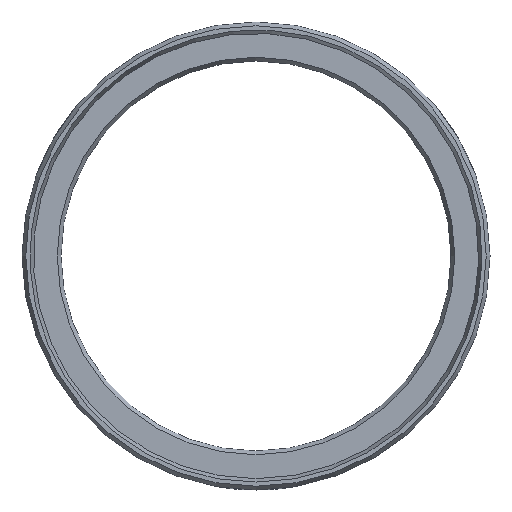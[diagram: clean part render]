
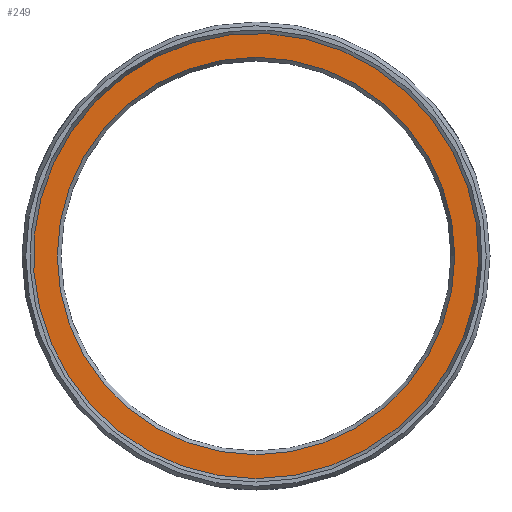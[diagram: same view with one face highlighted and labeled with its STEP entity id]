
A CAD part, left-side view. The second image highlights one B-rep face of the part: STEP entity #249.
In plain terms, the highlighted planar face has unit normal (-1, 0, 0).
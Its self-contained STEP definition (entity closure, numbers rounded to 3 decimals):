
#106=PLANE('',#985);
#249=ADVANCED_FACE('',(#309,#310),#106,.T.);
#309=FACE_BOUND('',#364,.T.);
#310=FACE_BOUND('',#365,.T.);
#364=EDGE_LOOP('',(#571));
#365=EDGE_LOOP('',(#572));
#571=ORIENTED_EDGE('',*,*,#816,.T.);
#572=ORIENTED_EDGE('',*,*,#815,.F.);
#701=VERTEX_POINT('',#1611);
#702=VERTEX_POINT('',#1614);
#815=EDGE_CURVE('',#701,#701,#881,.T.);
#816=EDGE_CURVE('',#702,#702,#882,.T.);
#881=CIRCLE('',#982,34.25);
#882=CIRCLE('',#984,30.577);
#982=AXIS2_PLACEMENT_3D('',#1610,#1195,#1196);
#984=AXIS2_PLACEMENT_3D('',#1613,#1199,#1200);
#985=AXIS2_PLACEMENT_3D('',#1615,#1201,#1202);
#1195=DIRECTION('',(1.,0.,0.));
#1196=DIRECTION('',(0.,0.,-1.));
#1199=DIRECTION('',(1.,0.,0.));
#1200=DIRECTION('',(0.,0.,1.));
#1201=DIRECTION('',(-1.,0.,0.));
#1202=DIRECTION('',(0.,0.,1.));
#1610=CARTESIAN_POINT('',(0.,0.,0.));
#1611=CARTESIAN_POINT('',(0.,0.,-34.25));
#1613=CARTESIAN_POINT('',(0.,0.,0.));
#1614=CARTESIAN_POINT('',(0.,0.,30.577));
#1615=CARTESIAN_POINT('',(0.,34.25,0.));
